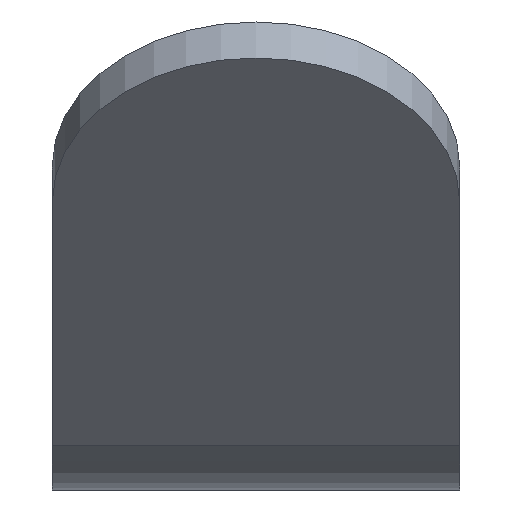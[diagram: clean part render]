
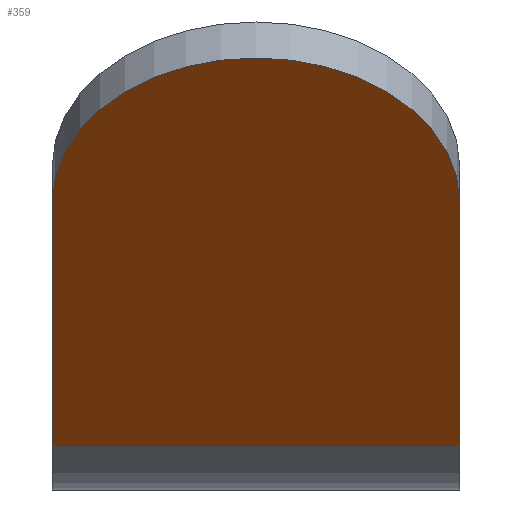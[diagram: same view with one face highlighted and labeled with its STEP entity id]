
A CAD part, left-side view. The second image highlights one B-rep face of the part: STEP entity #359.
In plain terms, the highlighted planar face has unit normal (-0.707, 0, -0.707).
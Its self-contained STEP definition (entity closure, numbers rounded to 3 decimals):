
#23 = CARTESIAN_POINT ( 'NONE',  ( -4.393, 40., -0.607 ) ) ;
#30 = LINE ( 'NONE', #360, #107 ) ;
#38 = CIRCLE ( 'NONE', #166, 20. ) ;
#65 = VECTOR ( 'NONE', #140, 1000. ) ;
#66 = CARTESIAN_POINT ( 'NONE',  ( -1.464, 0., -3.536 ) ) ;
#75 = VECTOR ( 'NONE', #158, 1000. ) ;
#76 = DIRECTION ( 'NONE',  ( 0.707, 0., -0.707 ) ) ;
#80 = CARTESIAN_POINT ( 'NONE',  ( -1.464, 0., -3.536 ) ) ;
#86 = PLANE ( 'NONE',  #267 ) ;
#91 = VERTEX_POINT ( 'NONE', #330 ) ;
#107 = VECTOR ( 'NONE', #328, 1000. ) ;
#108 = DIRECTION ( 'NONE',  ( 0.707, 0., -0.707 ) ) ;
#112 = FACE_OUTER_BOUND ( 'NONE', #162, .T. ) ;
#125 = ORIENTED_EDGE ( 'NONE', *, *, #230, .T. ) ;
#140 = DIRECTION ( 'NONE',  ( 0., 1., 0. ) ) ;
#155 = CARTESIAN_POINT ( 'NONE',  ( -4.393, 0., -0.607 ) ) ;
#158 = DIRECTION ( 'NONE',  ( -0.707, 0., 0.707 ) ) ;
#159 = VERTEX_POINT ( 'NONE', #414 ) ;
#162 = EDGE_LOOP ( 'NONE', ( #422, #125, #356, #175 ) ) ;
#166 = AXIS2_PLACEMENT_3D ( 'NONE', #275, #409, #76 ) ;
#175 = ORIENTED_EDGE ( 'NONE', *, *, #317, .F. ) ;
#220 = LINE ( 'NONE', #23, #65 ) ;
#230 = EDGE_CURVE ( 'NONE', #388, #159, #38, .T. ) ;
#245 = LINE ( 'NONE', #66, #75 ) ;
#250 = DIRECTION ( 'NONE',  ( 0.707, 0., 0.707 ) ) ;
#263 = VERTEX_POINT ( 'NONE', #155 ) ;
#267 = AXIS2_PLACEMENT_3D ( 'NONE', #80, #250, #108 ) ;
#275 = CARTESIAN_POINT ( 'NONE',  ( -28.284, 20., 23.284 ) ) ;
#277 = CARTESIAN_POINT ( 'NONE',  ( -28.284, 0., 23.284 ) ) ;
#317 = EDGE_CURVE ( 'NONE', #263, #91, #220, .T. ) ;
#328 = DIRECTION ( 'NONE',  ( 0.707, 0., -0.707 ) ) ;
#330 = CARTESIAN_POINT ( 'NONE',  ( -4.393, 40., -0.607 ) ) ;
#356 = ORIENTED_EDGE ( 'NONE', *, *, #428, .T. ) ;
#359 = ADVANCED_FACE ( 'NONE', ( #112 ), #86, .F. ) ;
#360 = CARTESIAN_POINT ( 'NONE',  ( -1.464, 40., -3.536 ) ) ;
#388 = VERTEX_POINT ( 'NONE', #277 ) ;
#403 = EDGE_CURVE ( 'NONE', #263, #388, #245, .T. ) ;
#409 = DIRECTION ( 'NONE',  ( -0.707, 0., -0.707 ) ) ;
#414 = CARTESIAN_POINT ( 'NONE',  ( -28.284, 40., 23.284 ) ) ;
#422 = ORIENTED_EDGE ( 'NONE', *, *, #403, .T. ) ;
#428 = EDGE_CURVE ( 'NONE', #159, #91, #30, .T. ) ;
